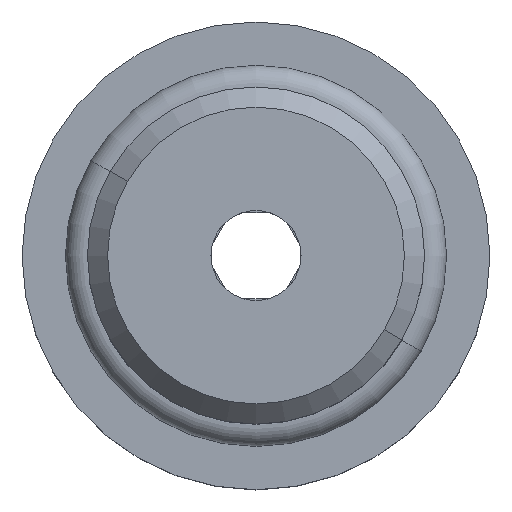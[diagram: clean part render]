
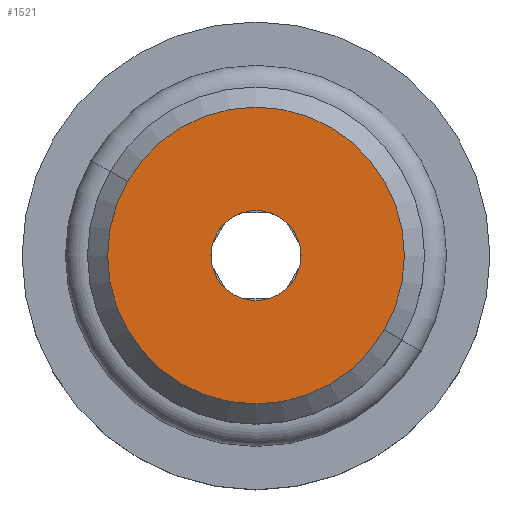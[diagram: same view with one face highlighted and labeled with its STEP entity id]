
A CAD part, top view. The second image highlights one B-rep face of the part: STEP entity #1521.
In plain terms, the highlighted planar face has unit normal (0, 0, 1).
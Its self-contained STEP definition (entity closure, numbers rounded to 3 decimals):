
#450=CARTESIAN_POINT('',(0.,0.,6.));
#451=DIRECTION('',(0.,0.,-1.));
#452=DIRECTION('',(-0.866,0.5,0.));
#453=AXIS2_PLACEMENT_3D('',#450,#451,#452);
#455=CARTESIAN_POINT('',(0.,0.,6.));
#456=DIRECTION('',(0.,0.,-1.));
#457=DIRECTION('',(0.866,-0.5,0.));
#458=AXIS2_PLACEMENT_3D('',#455,#456,#457);
#460=CARTESIAN_POINT('',(0.,0.,6.));
#461=DIRECTION('',(0.,0.,1.));
#462=DIRECTION('',(0.866,-0.5,0.));
#463=AXIS2_PLACEMENT_3D('',#460,#461,#462);
#465=CARTESIAN_POINT('',(0.,0.,6.));
#466=DIRECTION('',(0.,0.,1.));
#467=DIRECTION('',(-0.866,0.5,0.));
#468=AXIS2_PLACEMENT_3D('',#465,#466,#467);
#797=CARTESIAN_POINT('',(1.126,-0.65,6.));
#799=VERTEX_POINT('',#797);
#804=CARTESIAN_POINT('',(-1.126,0.65,6.));
#805=VERTEX_POINT('',#804);
#808=CARTESIAN_POINT('',(-3.709,2.142,6.));
#809=CARTESIAN_POINT('',(3.709,-2.142,6.));
#810=VERTEX_POINT('',#808);
#811=VERTEX_POINT('',#809);
#1506=CARTESIAN_POINT('',(0.,0.,6.));
#1507=DIRECTION('',(0.,0.,-1.));
#1508=DIRECTION('',(0.866,-0.5,0.));
#1509=AXIS2_PLACEMENT_3D('',#1506,#1507,#1508);
#1510=PLANE('',#1509);
#1512=ORIENTED_EDGE('',*,*,#1511,.T.);
#1514=ORIENTED_EDGE('',*,*,#1513,.T.);
#1515=EDGE_LOOP('',(#1512,#1514));
#1516=FACE_OUTER_BOUND('',#1515,.F.);
#1517=ORIENTED_EDGE('',*,*,#1420,.T.);
#1518=ORIENTED_EDGE('',*,*,#1469,.T.);
#1519=EDGE_LOOP('',(#1517,#1518));
#1520=FACE_BOUND('',#1519,.F.);
#1521=ADVANCED_FACE('',(#1516,#1520),#1510,.F.);
#454=CIRCLE('',#453,4.283);
#459=CIRCLE('',#458,4.283);
#464=CIRCLE('',#463,1.3);
#469=CIRCLE('',#468,1.3);
#1420=EDGE_CURVE('',#799,#805,#464,.T.);
#1469=EDGE_CURVE('',#805,#799,#469,.T.);
#1511=EDGE_CURVE('',#810,#811,#454,.T.);
#1513=EDGE_CURVE('',#811,#810,#459,.T.);
